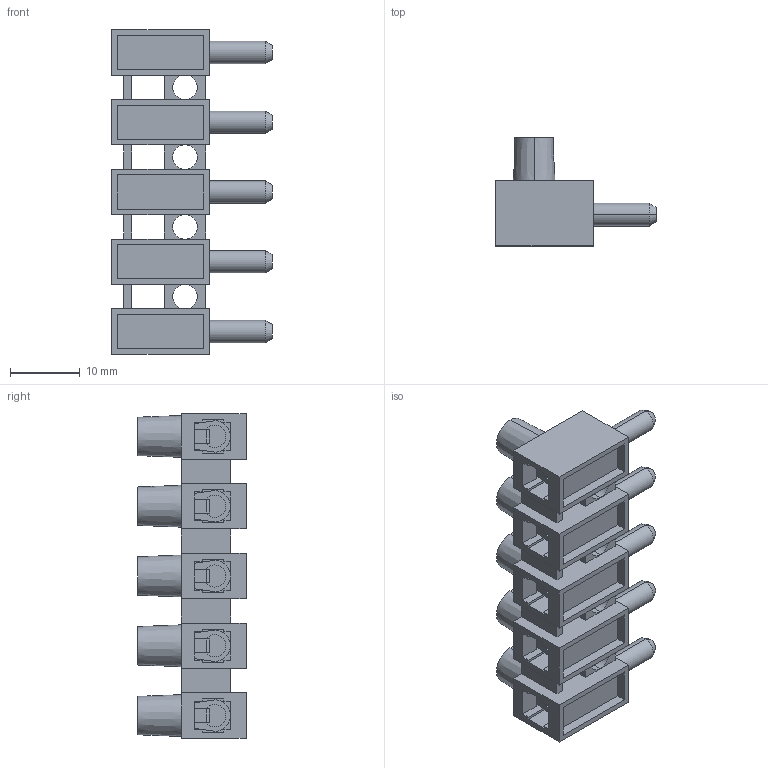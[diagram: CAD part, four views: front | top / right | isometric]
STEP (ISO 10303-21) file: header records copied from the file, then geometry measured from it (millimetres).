
FILE_DESCRIPTION (( 'STEP AP214' ), '1' );
FILE_NAME ('322-STFS-DS-05.STEP', '2008-04-15T01:58:54', ( ' ' ), ( '' ), 'SwSTEP 2.0', 'SolidWorks 2007', '' );
FILE_SCHEMA (( 'AUTOMOTIVE_DESIGN' ));
Length unit declared in the file: millimetre
Products named in the file (1): 322-STFS-DS-05
Bounding box: 23 x 15.5 x 46.5 mm (x, y, z)
Volume: 4592.1 mm3; surface area: 5694.7 mm2
Topology: 1 solids, 1 shells, 592 faces, 1688 edges, 1110 vertices
Faces by surface type: plane 379, cylinder 143, cone 45, bspline 25
Entity records: 20875 total; most frequent: CARTESIAN_POINT 5221, ORIENTED_EDGE 3376, DIRECTION 3145, EDGE_CURVE 1688, VECTOR 1157, LINE 1157, VERTEX_POINT 1110, AXIS2_PLACEMENT_3D 994
